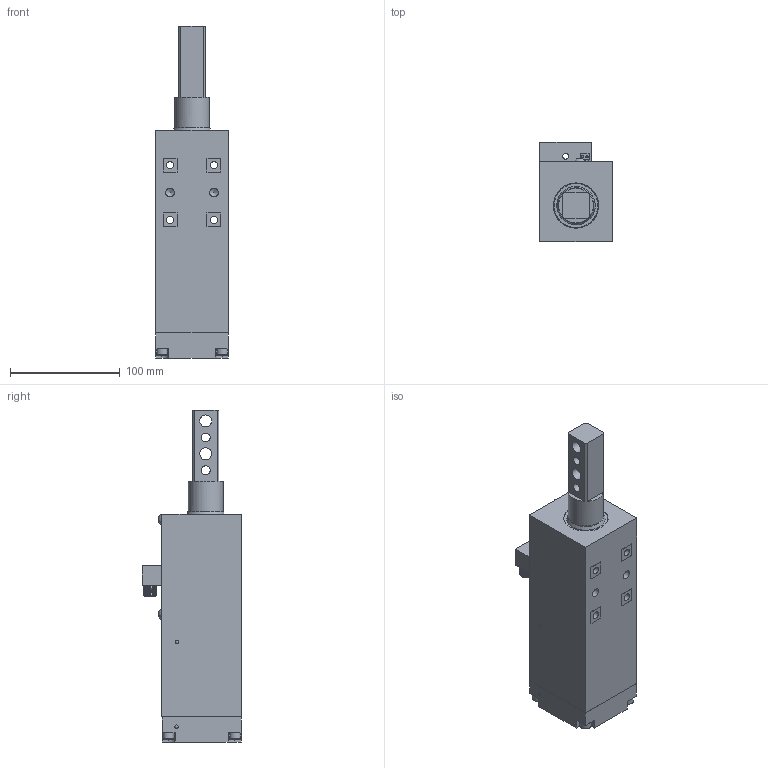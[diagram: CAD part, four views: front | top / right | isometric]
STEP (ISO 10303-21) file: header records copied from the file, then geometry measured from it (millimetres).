
FILE_DESCRIPTION(/* description */ (''),/* implementation_level */ '2;1');
FILE_NAME(/* name */ 'Z:\CAD-Zaytran\Product\LSA\LSA - 72\STEP Files\LSA-72 25mm Extend Holes Horizontal.stp',/* time_stamp */ '2020-12-28T12:42:20-05:00',/* author */ ('ZaytranCAD2'),/* organization */ (''),/* preprocessor_version */ 'ST-DEVELOPER v17',/* originating_system */ 'Autodesk Inventor 2019',/* authorisation */ '');
FILE_SCHEMA (('AUTOMOTIVE_DESIGN { 1 0 10303 214 3 1 1 }'));
Products named in the file (22): LSA-72 Assembly; LSA-72 Body; LSA-72 Shaft; LSA-72 Piston; LSA-72 Anti Rotation Block; 1.25 Dia Oring; Press Seal Ring; LSA-72 End Cap; .125 Ball Bearing; .3125 O Ring; Turck Sensor; Chicklet - New; 5.0x8mm Button Head Screw; M10 Washer; M10 Hex Nut; .375 Black Oxide 18-8 Stainless Steel Washer; M8 Washer; M8x30mm SHCS; AS 1420 - 1973 - M6 x 25; Sensor Cover; AS 1420 - 1973 - M3 x 6; Rod Wiper
Assembly tree (28 placements, depth 2):
  LSA-72 Assembly
    LSA-72 Body
    LSA-72 Shaft
    LSA-72 Piston
    LSA-72 Anti Rotation Block
    1.25 Dia Oring
    Press Seal Ring
    LSA-72 End Cap
    .125 Ball Bearing  x2
    .3125 O Ring
    Chicklet - New  x3
    Turck Sensor
    5.0x8mm Button Head Screw  x2
    M10 Washer
    M10 Hex Nut
    .375 Black Oxide 18-8 Stainless Steel Washer
    M8 Washer
    M8x30mm SHCS
    AS 1420 - 1973 - M6 x 25  x4
    Sensor Cover
    AS 1420 - 1973 - M3 x 6
    Rod Wiper
Bounding box: 66 x 91.01 x 303.01 mm (x, y, z)
Volume: 859651.4 mm3; surface area: 192275 mm2
Topology: 28 solids, 28 shells, 1288 faces, 3588 edges, 2398 vertices
Faces by surface type: plane 404, cone 330, cylinder 294, bspline 233, torus 23, sphere 4
Full cylindrical faces by diameter (mm): 1 x8, 1.587 x2, 2 x2, 2.2 x6, 2.464 x4, 3 x1, 3.048 x2, 3.099 x2, 3.175 x2, 3.961 x20, 4.14 x2, 4.47 x1, 4.762 x1, 4.928 x4, 5 x18, 5.3 x4, 5.5 x1, 6 x4, 6.248 x4, 6.655 x5, 6.701 x28, 6.756 x4, 7.938 x1, 8 x33, 8.3 x1, 8.331 x1, 8.56 x2, 9.5 x2, 9.652 x1, 9.982 x1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
Entity records: 51367 total; most frequent: CARTESIAN_POINT 22257, ORIENTED_EDGE 6524, DIRECTION 5097, EDGE_CURVE 3262, VERTEX_POINT 2181, AXIS2_PLACEMENT_3D 2082, EDGE_LOOP 1295, FACE_OUTER_BOUND 1172
